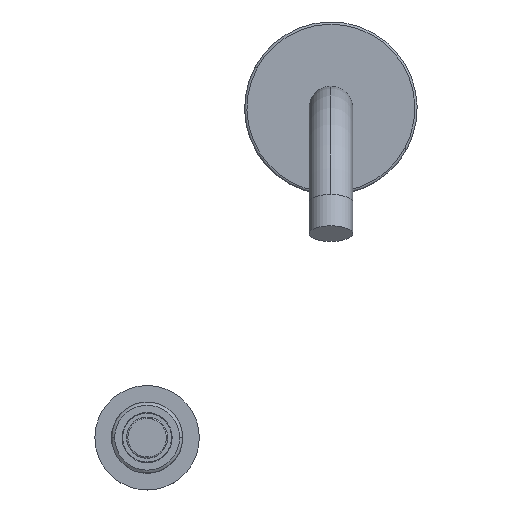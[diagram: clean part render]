
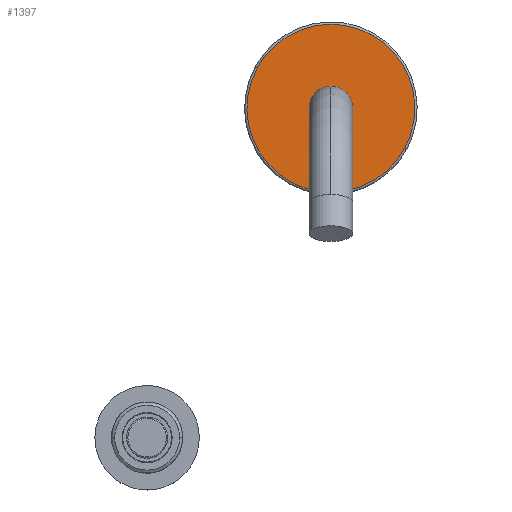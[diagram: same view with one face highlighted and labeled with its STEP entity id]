
A CAD part, top view. The second image highlights one B-rep face of the part: STEP entity #1397.
In plain terms, the highlighted planar face has unit normal (0, 0, 1).
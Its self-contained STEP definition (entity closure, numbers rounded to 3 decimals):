
#23 = EDGE_CURVE ( 'NONE', #1708, #330, #369, .T. ) ;
#69 = CIRCLE ( 'NONE', #1778, 36.5 ) ;
#330 = VERTEX_POINT ( 'NONE', #449 ) ;
#369 = CIRCLE ( 'NONE', #1836, 36.5 ) ;
#449 = CARTESIAN_POINT ( 'NONE',  ( 32.032, -17.499, 106. ) ) ;
#589 = FACE_OUTER_BOUND ( 'NONE', #2241, .T. ) ;
#918 = AXIS2_PLACEMENT_3D ( 'NONE', #1136, #1149, #1695 ) ;
#1062 = DIRECTION ( 'NONE',  ( 0., -1., 0. ) ) ;
#1136 = CARTESIAN_POINT ( 'NONE',  ( -9.6, 0., 106. ) ) ;
#1149 = DIRECTION ( 'NONE',  ( 0., 0., -1. ) ) ;
#1240 = DIRECTION ( 'NONE',  ( 0., -1., 0. ) ) ;
#1311 = DIRECTION ( 'NONE',  ( 0., 0., -1. ) ) ;
#1323 = PLANE ( 'NONE',  #918 ) ;
#1328 = EDGE_CURVE ( 'NONE', #330, #1708, #69, .T. ) ;
#1397 = ADVANCED_FACE ( 'NONE', ( #589 ), #1323, .F. ) ;
#1459 = CARTESIAN_POINT ( 'NONE',  ( 0., 0., 106. ) ) ;
#1681 = ORIENTED_EDGE ( 'NONE', *, *, #23, .F. ) ;
#1695 = DIRECTION ( 'NONE',  ( 0., 1., 0. ) ) ;
#1708 = VERTEX_POINT ( 'NONE', #1903 ) ;
#1778 = AXIS2_PLACEMENT_3D ( 'NONE', #1459, #1311, #1062 ) ;
#1836 = AXIS2_PLACEMENT_3D ( 'NONE', #2169, #2006, #1240 ) ;
#1903 = CARTESIAN_POINT ( 'NONE',  ( -32.032, 17.499, 106. ) ) ;
#2006 = DIRECTION ( 'NONE',  ( 0., 0., -1. ) ) ;
#2169 = CARTESIAN_POINT ( 'NONE',  ( 0., 0., 106. ) ) ;
#2216 = ORIENTED_EDGE ( 'NONE', *, *, #1328, .F. ) ;
#2241 = EDGE_LOOP ( 'NONE', ( #2216, #1681 ) ) ;
